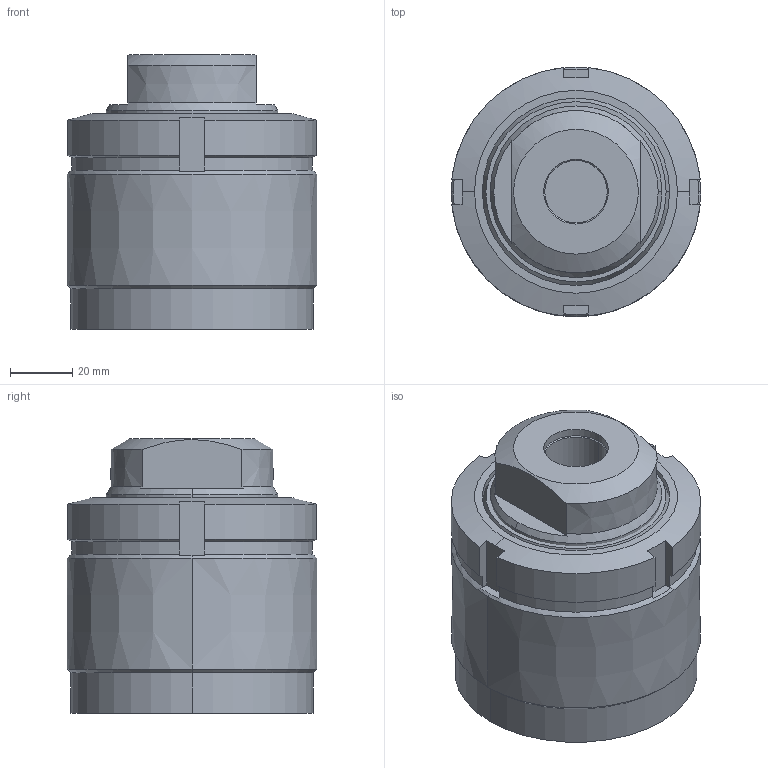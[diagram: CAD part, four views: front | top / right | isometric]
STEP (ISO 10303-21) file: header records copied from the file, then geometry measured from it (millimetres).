
FILE_DESCRIPTION((' '),'2;1');
FILE_NAME( 'TGP80-AS.x_t.stp', '2025-02-10T16:03:59', (' '), ('--- Datakit www.datakit.com---'), ' Datakit CrossCadWare V2024.1 Dec 21 2023', 'Mastercam 2025', ' ');
FILE_SCHEMA(('AUTOMOTIVE_DESIGN { 1 0 10303 214 1 1 1 1 }'));
Length unit declared in the file: millimetre
Products named in the file (1): TGP80-AS
Bounding box: 80 x 80 x 88 mm (x, y, z)
Volume: 394509.4 mm3; surface area: 41556.3 mm2
Topology: 2 solids, 2 shells, 90 faces, 221 edges, 142 vertices
Faces by surface type: plane 32, cone 28, cylinder 26, torus 4
Entity records: 2814 total; most frequent: CARTESIAN_POINT 662, DIRECTION 458, ORIENTED_EDGE 438, EDGE_CURVE 219, AXIS2_PLACEMENT_3D 190, VERTEX_POINT 142, CIRCLE 99, EDGE_LOOP 99
